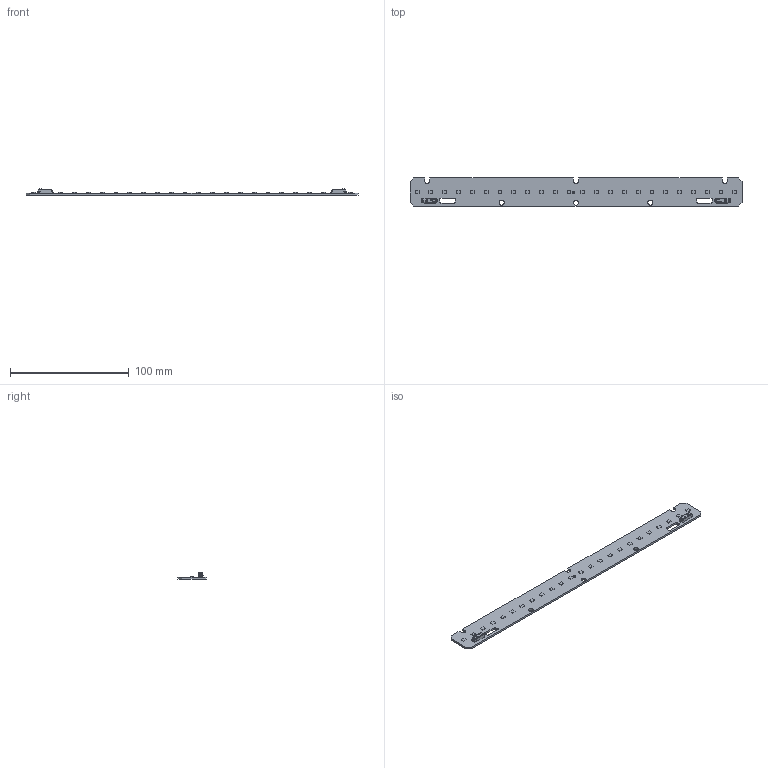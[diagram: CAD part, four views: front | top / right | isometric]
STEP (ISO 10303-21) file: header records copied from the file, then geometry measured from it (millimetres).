
FILE_DESCRIPTION((''),'2;1');
FILE_NAME('16208800_LLE-G5-24X280-1250LM','2018-07-17T08:38:36',('bernhard.fink'),(''),'CREO PARAMETRIC BY PTC INC, 2017380','CREO PARAMETRIC BY PTC INC, 2017380','');
FILE_SCHEMA(('AUTOMOTIVE_DESIGN { 1 0 10303 214 1 1 1 1 }'));
Length unit declared in the file: millimetre
Products named in the file (1): 16208800_LLE-G5-24X280-1250LM
Bounding box: 279 x 23.6 x 5.1 mm (x, y, z)
Volume: 10844.2 mm3; surface area: 14470.5 mm2
Topology: 1 solids, 1 shells, 658 faces, 1686 edges, 1057 vertices
Faces by surface type: plane 332, cylinder 146, bspline 120, cone 34, torus 14, sphere 12
Entity records: 34367 total; most frequent: CARTESIAN_POINT 9478, ORIENTED_EDGE 3344, DIRECTION 2576, PRESENTATION_STYLE_ASSIGNMENT 2331, STYLED_ITEM 1673, CURVE_STYLE 1672, EDGE_CURVE 1672, VERTEX_POINT 1055
